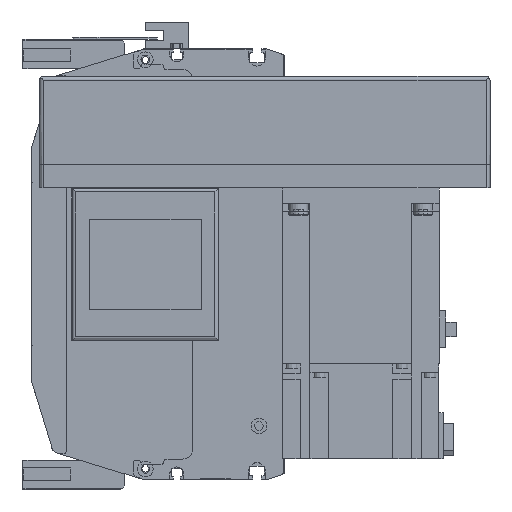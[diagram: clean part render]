
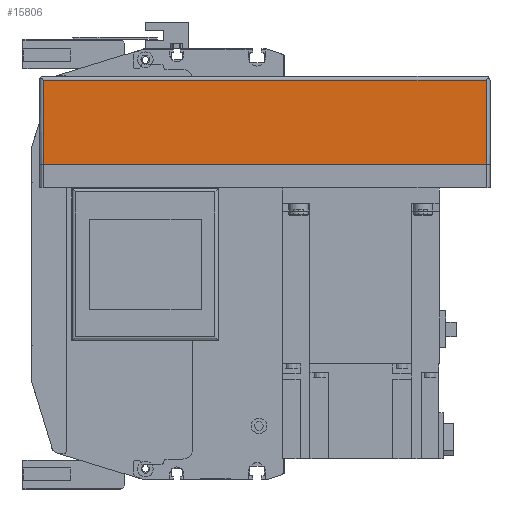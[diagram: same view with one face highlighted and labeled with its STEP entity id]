
A CAD part, left-side view. The second image highlights one B-rep face of the part: STEP entity #15806.
In plain terms, the highlighted planar face has unit normal (-1, 0, 0) as drawn and (0, -1, 0) by its records, which use the part's own axes.
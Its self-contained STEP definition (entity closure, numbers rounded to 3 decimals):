
#2555=ORIENTED_EDGE('',*,*,#6354,.F.);
#2556=ORIENTED_EDGE('',*,*,#6357,.T.);
#2557=ORIENTED_EDGE('',*,*,#6358,.T.);
#2558=ORIENTED_EDGE('',*,*,#6359,.F.);
#6354=EDGE_CURVE('',#8381,#8382,#10021,.T.);
#6357=EDGE_CURVE('',#8381,#8384,#10023,.T.);
#6358=EDGE_CURVE('',#8384,#8385,#10024,.T.);
#6359=EDGE_CURVE('',#8382,#8385,#10025,.T.);
#8381=VERTEX_POINT('',#24663);
#8382=VERTEX_POINT('',#24665);
#8384=VERTEX_POINT('',#24671);
#8385=VERTEX_POINT('',#24673);
#10021=LINE('',#24664,#11384);
#10023=LINE('',#24670,#11386);
#10024=LINE('',#24672,#11387);
#10025=LINE('',#24674,#11388);
#11384=VECTOR('',#19660,1000.);
#11386=VECTOR('',#19666,1000.);
#11387=VECTOR('',#19667,1000.);
#11388=VECTOR('',#19668,1000.);
#12572=EDGE_LOOP('',(#2555,#2556,#2557,#2558));
#13935=FACE_BOUND('',#12572,.T.);
#15154=PLANE('',#16954);
#15806=ADVANCED_FACE('',(#13935),#15154,.T.);
#16954=AXIS2_PLACEMENT_3D('',#24669,#19664,#19665);
#19660=DIRECTION('',(0.,0.,1.));
#19664=DIRECTION('',(0.,-1.,0.));
#19665=DIRECTION('',(0.,0.,-1.));
#19666=DIRECTION('',(1.,0.,0.));
#19667=DIRECTION('',(0.,0.,1.));
#19668=DIRECTION('',(1.,0.,0.));
#24663=CARTESIAN_POINT('',(-228.,-54.,-55.));
#24664=CARTESIAN_POINT('',(-228.,-54.,-57.));
#24665=CARTESIAN_POINT('',(-228.,-54.,-12.));
#24669=CARTESIAN_POINT('',(-228.,-54.,-57.));
#24670=CARTESIAN_POINT('',(-230.,-54.,-55.));
#24671=CARTESIAN_POINT('',(-2.,-54.,-55.));
#24672=CARTESIAN_POINT('',(-2.,-54.,-57.));
#24673=CARTESIAN_POINT('',(-2.,-54.,-12.));
#24674=CARTESIAN_POINT('',(-228.,-54.,-12.));
